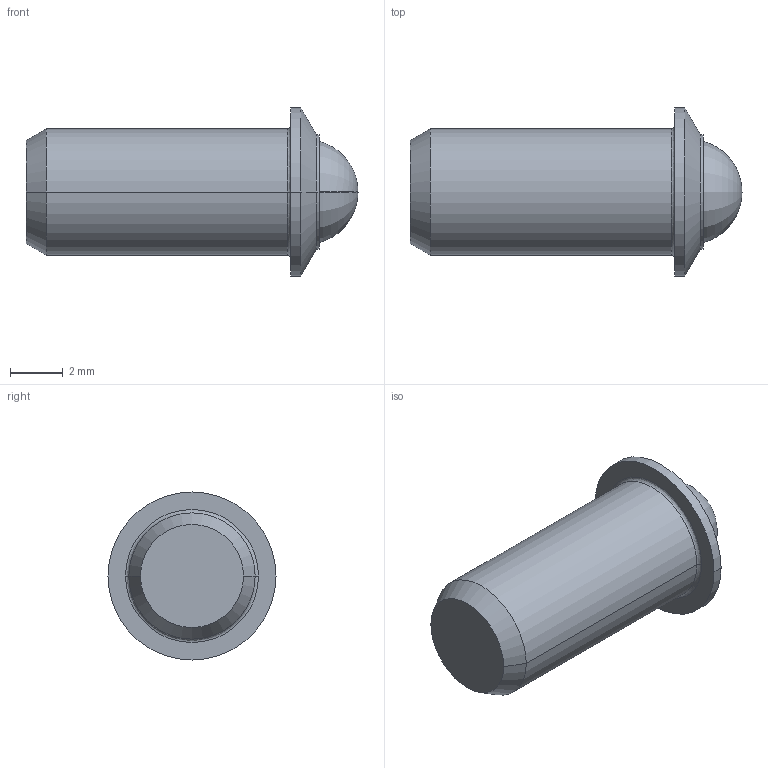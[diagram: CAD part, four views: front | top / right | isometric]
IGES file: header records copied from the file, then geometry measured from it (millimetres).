
Start section:  PTC IGES file: pfb52-part-3d.igs
Global section: file name: pfb52-part-3d.igs; native system: Pro/ENGINEER by Parametric Technology Corporation; preprocessor: 2002350; author: chant; organization: Unknown; date: 070201.162525; units: inch
Bounding box: 12.55 x 6.35 x 6.35 mm (x, y, z)
Surface area: 363 mm2 (no closed solid volume)
Topology: 0 solids, 0 shells, 20 faces, 101 edges, 111 vertices
Faces by surface type: revolution 16, bspline 4
